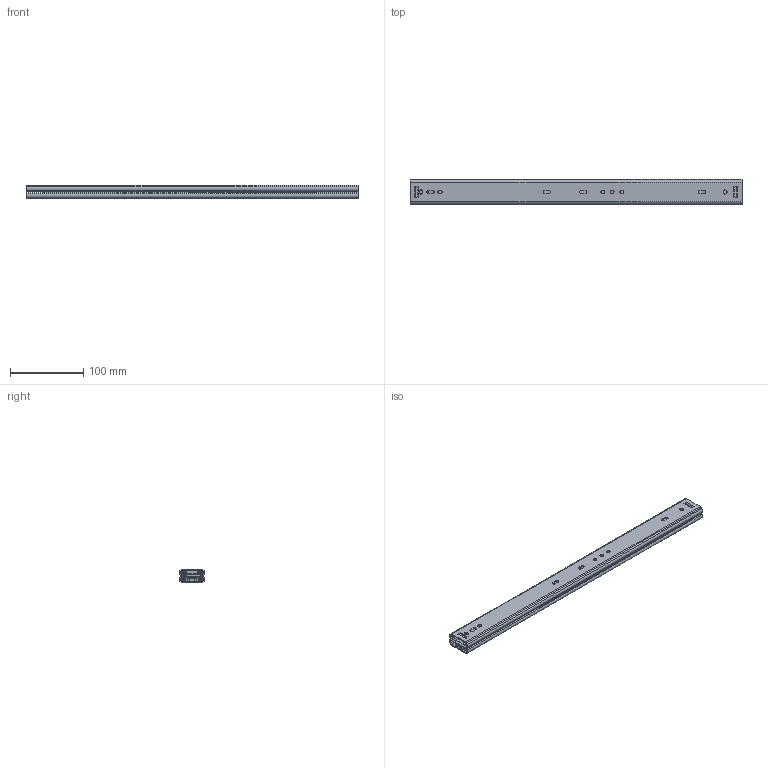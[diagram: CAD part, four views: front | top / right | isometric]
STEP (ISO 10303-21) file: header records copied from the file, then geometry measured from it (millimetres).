
FILE_DESCRIPTION(/* description */ (''),/* implementation_level */ '2;1');
FILE_NAME(/* name */ '\\NAS\db20\L6-450\DR_L6-450.stp',/* time_stamp */ '2017-10-11T10:37:26+09:00',/* author */ ('user'),/* organization */ (''),/* preprocessor_version */ 'ST-DEVELOPER v15.6',/* originating_system */ 'Autodesk Inventor 2015',/* authorisation */ '');
FILE_SCHEMA (('AUTOMOTIVE_DESIGN { 1 0 10303 214 3 1 1 }'));
Length unit declared in the file: millimetre
Products named in the file (4): DR_L6-450-B; DR_L6-450-P1; DR_L6-450-P2; DR_L6-450
Bounding box: 454 x 35.23 x 19.14 mm (x, y, z)
Volume: 119584.5 mm3; surface area: 182760.9 mm2
Topology: 8 solids, 8 shells, 570 faces, 1430 edges, 988 vertices
Faces by surface type: plane 284, cylinder 174, sphere 112
Full cylindrical faces by diameter (mm): 5 x10
Entity records: 8804 total; most frequent: DIRECTION 1530, CARTESIAN_POINT 1499, ORIENTED_EDGE 1420, EDGE_CURVE 710, AXIS2_PLACEMENT_3D 525, VERTEX_POINT 494, LINE 480, VECTOR 480
